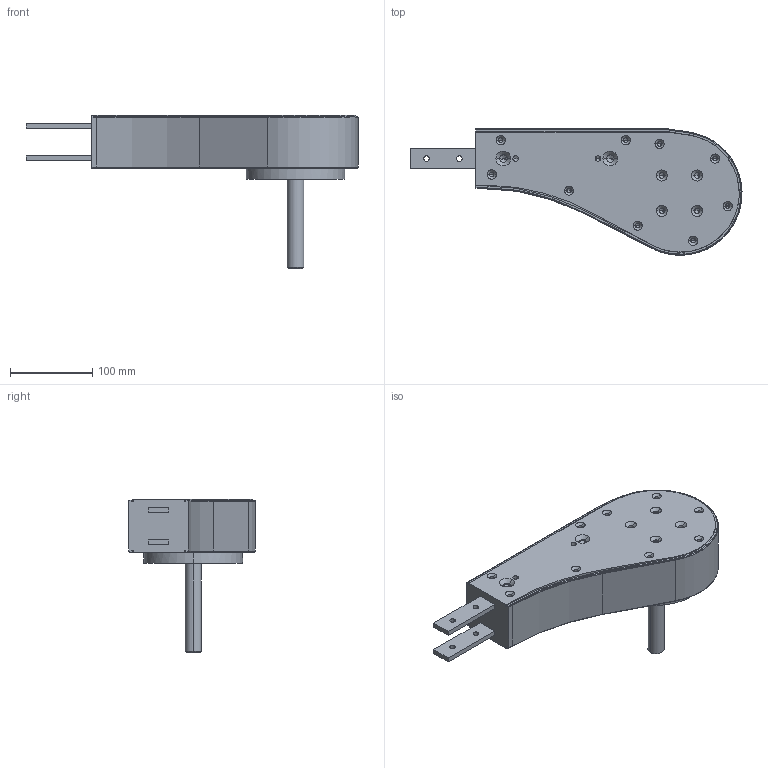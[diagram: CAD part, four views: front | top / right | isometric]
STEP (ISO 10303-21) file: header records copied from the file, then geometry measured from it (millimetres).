
FILE_DESCRIPTION (( 'STEP AP214' ), '1' );
FILE_NAME ('FSDD GP 0L.step', '2017-04-07T11:09:27', ( '' ), ( '' ), 'SwSTEP 2.0', 'SolidWorks 2016', '' );
FILE_SCHEMA (( 'AUTOMOTIVE_DESIGN' ));
Length unit declared in the file: millimetre
Products named in the file (1): FSDD GP 0L
Bounding box: 403.6 x 153.55 x 186.3 mm (x, y, z)
Volume: 2432874.8 mm3; surface area: 158536.1 mm2
Topology: 1 solids, 1 shells, 352 faces, 845 edges, 470 vertices
Faces by surface type: cone 143, cylinder 129, plane 64, bspline 16
Entity records: 10920 total; most frequent: CARTESIAN_POINT 1896, DIRECTION 1781, ORIENTED_EDGE 1554, EDGE_CURVE 777, AXIS2_PLACEMENT_3D 691, VERTEX_POINT 470, EDGE_LOOP 403, LINE 399
